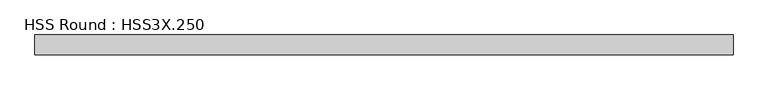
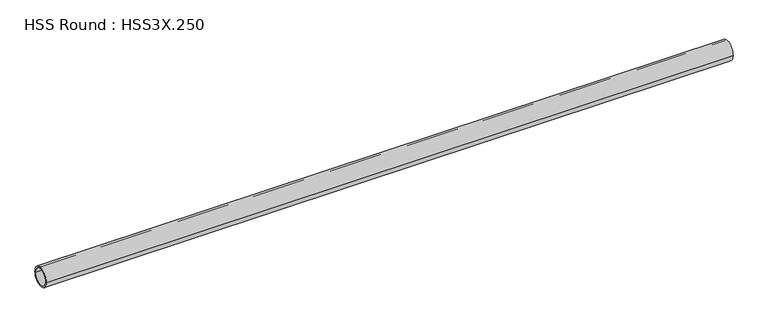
"""IFC4 building model written with IfcOpenShell, lengths in millimetres: member geometry, HSS Round : HSS3X.250."""

from ifc_helpers import new_model, si_unit, point, frame, origin, origin_2d, place, context, project, spatial, circle_curve, trimmed, segment, composite_curve, outline, extrude, source, transform, mapped, element, save


def hss_round_hss3x_250_6881349c(model_context):
    return source(origin(), model_context, "Body", "SweptSolid", [
        extrude(outline(composite_curve([segment(trimmed(circle_curve(origin_2d(), 38.1), [point((-38.1, 0.0))], [point((38.1, 0.0))], False, "CARTESIAN"), True, "CONTINUOUS"), segment(trimmed(circle_curve(origin_2d(), 38.1), [point((38.1, 0.0))], [point((-38.1, 0.0))], False, "CARTESIAN"), True, "CONTINUOUS")], self_intersect=False), holes=[composite_curve([segment(trimmed(circle_curve(origin_2d(), 31.75), [point((31.75, 0.0))], [point((-31.75, 0.0))], True, "CARTESIAN"), True, "CONTINUOUS"), segment(trimmed(circle_curve(origin_2d(), 31.75), [point((-31.75, 0.0))], [point((31.75, 0.0))], True, "CARTESIAN"), True, "CONTINUOUS")], self_intersect=False)]), frame((-1391.4406039, 0.0, 0.0), z_axis=(1.0, 0.0, 0.0), x_axis=(0.0, 1.0, 0.0)), (0.0, 0.0, 1.0), 2649.9195529),
    ])


if __name__ == "__main__":
    model = new_model("IFC4")
    model_context = context("Model", 3, world=origin())
    ifc_project = project(units=[si_unit("LENGTHUNIT", "METRE", prefix="MILLI")], contexts=[model_context])
    site = spatial("IfcSite", under=ifc_project)
    building = spatial("IfcBuilding", under=site)
    placement = place(None, origin())
    hss_round_hss3x_250_shape = hss_round_hss3x_250_6881349c(model_context)
    element("IfcMember", 1, ObjectType="HSS Round : HSS3X.250", at=placement, inside=building, context=model_context, shape_type="MappedRepresentation", body=[
        mapped(hss_round_hss3x_250_shape, transform((0.0, 0.0, 0.0), x_axis=(1.0, 0.0, 0.0), y_axis=(0.0, 1.0, 0.0), z_axis=(0.0, 0.0, 1.0))),
    ])
    save(model, "model.ifc")
